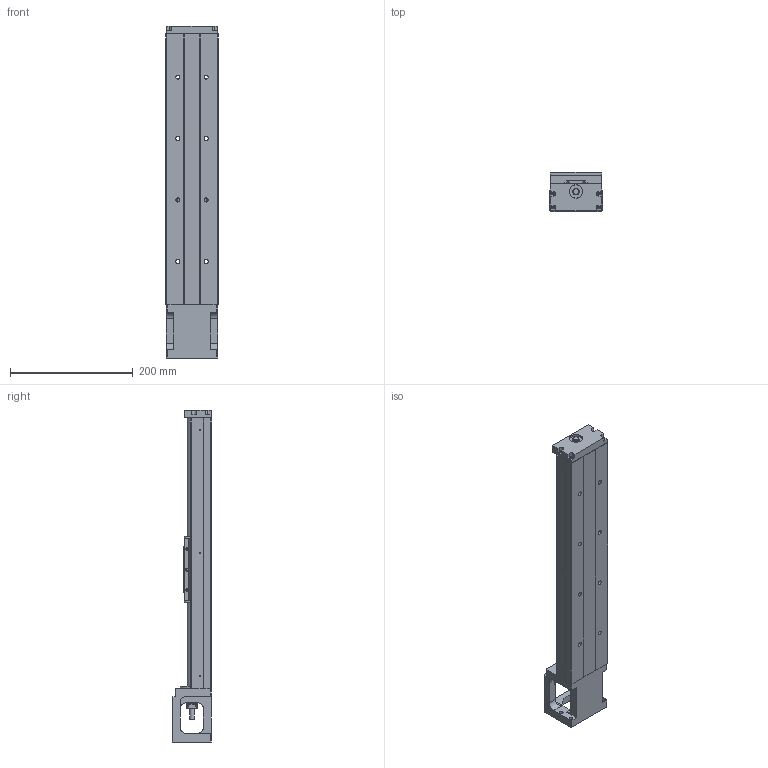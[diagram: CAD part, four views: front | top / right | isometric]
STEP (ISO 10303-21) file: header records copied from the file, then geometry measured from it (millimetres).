
FILE_DESCRIPTION(/* description */ (''),/* implementation_level */ '2;1');
FILE_NAME(/* name */ 'KP46N-440C02-1.stp',/* time_stamp */ '2020-07-02T11:52:40+08:00',/* author */ (''),/* organization */ (''),/* preprocessor_version */ 'ST-DEVELOPER v14',/* originating_system */ 'SIEMENS PLM Software NX 8.0',/* authorisation */ '');
FILE_SCHEMA (('AUTOMOTIVE_DESIGN { 1 0 10303 214 3 1 1 1 }'));
Length unit declared in the file: millimetre
Products named in the file (1): model2
Bounding box: 86 x 64 x 540 mm (x, y, z)
Volume: 1181298.4 mm3; surface area: 250379.7 mm2
Topology: 5 solids, 17 shells, 610 faces, 1599 edges, 1049 vertices
Faces by surface type: plane 284, cylinder 217, cone 60, bspline 41, torus 8
Full cylindrical faces by diameter (mm): 2.11 x4, 2.15 x6, 2.42 x8, 3 x6, 3.2 x4, 3.3 x6, 3.4 x8, 4.2 x4, 4.5 x8, 5 x10, 6 x8, 6.35 x2, 6.6 x8, 8 x1, 9.6 x1, 10 x3, 11 x8, 12 x1, 14.95 x2, 15 x1, 16 x2, 22 x3, 27.5 x1, 44 x1, 50 x1
Entity records: 30273 total; most frequent: CARTESIAN_POINT 12591, ORIENTED_EDGE 2744, DIRECTION 2707, EDGE_CURVE 1372, AXIS2_PLACEMENT_3D 990, VERTEX_POINT 987, EDGE_LOOP 851, LINE 727
